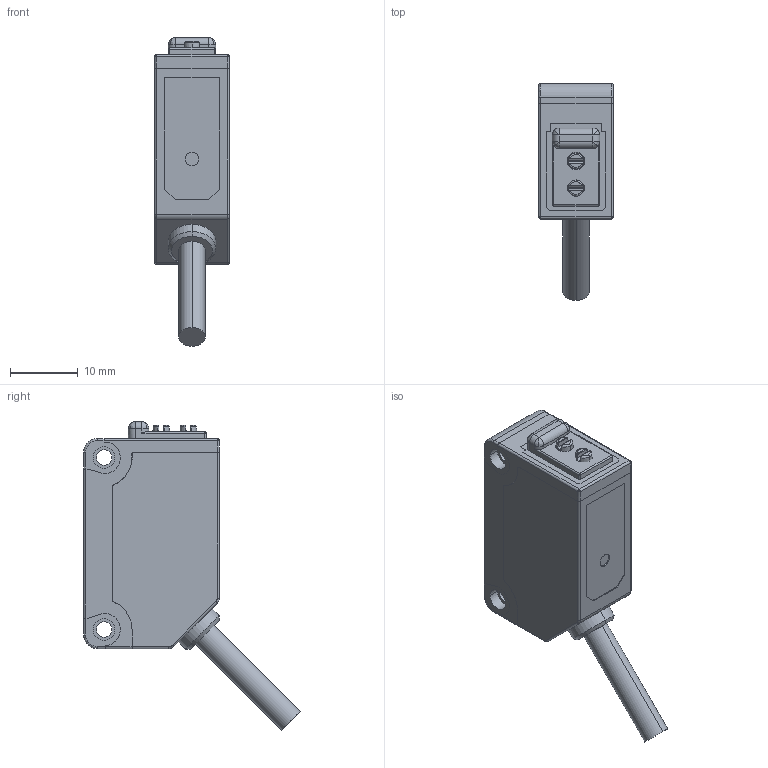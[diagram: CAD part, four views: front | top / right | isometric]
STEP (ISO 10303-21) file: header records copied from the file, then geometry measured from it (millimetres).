
FILE_DESCRIPTION (( 'STEP AP203' ), '1' );
FILE_NAME ('pf31V--T-j.STEP', '2022-07-14T07:46:46', ( 'Windows User' ), ( 'P R C' ), 'SwSTEP 2.0', 'SolidWorks 2016', '' );
FILE_SCHEMA (( 'CONFIG_CONTROL_DESIGN' ));
Length unit declared in the file: millimetre
Products named in the file (12): PF31-006_J; BIAOJIAO_J; PCB01_J; TIAOJIEB_J; O-ING_J; PF31-DUISHE_J; GUANGLAN; PF31-002_J; O-ING; PF31-005_J; pf31V--T-j; PF31-001_J
Assembly tree (12 placements, depth 2):
  pf31V--T-j
    PF31-DUISHE_J
    PF31-002_J
    PF31-005_J
    PF31-001_J
    PF31-006_J
    BIAOJIAO_J
    PCB01_J
    TIAOJIEB_J  x2
    O-ING_J
    GUANGLAN
    O-ING
Bounding box: 11 x 31.97 x 45.57 mm (x, y, z)
Volume: 4442.9 mm3; surface area: 9334.9 mm2
Topology: 17 solids, 20 shells, 1540 faces, 4153 edges, 2658 vertices
Faces by surface type: plane 1047, cylinder 321, bspline 124, cone 48
Entity records: 50768 total; most frequent: CARTESIAN_POINT 12913, ORIENTED_EDGE 7972, DIRECTION 7038, EDGE_CURVE 3995, LINE 2974, VECTOR 2974, VERTEX_POINT 2586, AXIS2_PLACEMENT_3D 2032
